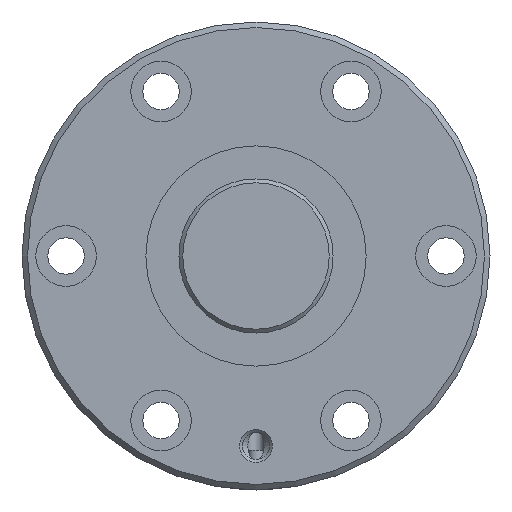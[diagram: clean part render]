
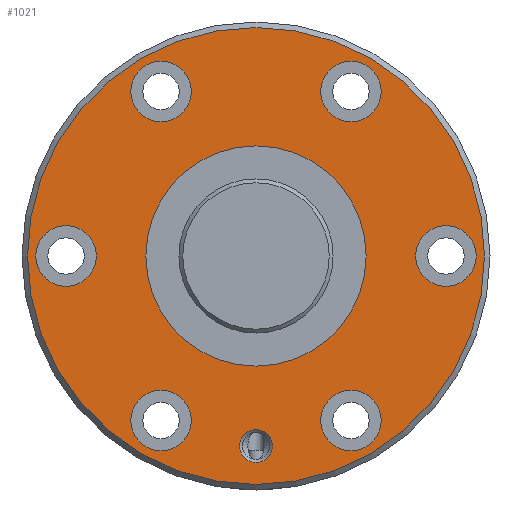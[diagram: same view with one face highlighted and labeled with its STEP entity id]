
A CAD part, left-side view. The second image highlights one B-rep face of the part: STEP entity #1021.
In plain terms, the highlighted planar face has unit normal (-1, 0, 0).
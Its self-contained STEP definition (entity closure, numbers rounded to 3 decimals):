
#162=ORIENTED_EDGE('',*,*,#385,.T.);
#163=ORIENTED_EDGE('',*,*,#386,.T.);
#164=ORIENTED_EDGE('',*,*,#387,.T.);
#165=ORIENTED_EDGE('',*,*,#388,.T.);
#166=ORIENTED_EDGE('',*,*,#389,.T.);
#167=ORIENTED_EDGE('',*,*,#390,.T.);
#168=ORIENTED_EDGE('',*,*,#391,.T.);
#169=ORIENTED_EDGE('',*,*,#392,.T.);
#170=ORIENTED_EDGE('',*,*,#384,.F.);
#384=EDGE_CURVE('',#499,#499,#593,.T.);
#385=EDGE_CURVE('',#500,#500,#594,.T.);
#386=EDGE_CURVE('',#501,#501,#595,.F.);
#387=EDGE_CURVE('',#502,#502,#596,.T.);
#388=EDGE_CURVE('',#503,#503,#597,.T.);
#389=EDGE_CURVE('',#504,#504,#598,.T.);
#390=EDGE_CURVE('',#505,#505,#599,.T.);
#391=EDGE_CURVE('',#506,#506,#600,.T.);
#392=EDGE_CURVE('',#507,#507,#601,.T.);
#499=VERTEX_POINT('',#1708);
#500=VERTEX_POINT('',#1711);
#501=VERTEX_POINT('',#1713);
#502=VERTEX_POINT('',#1715);
#503=VERTEX_POINT('',#1717);
#504=VERTEX_POINT('',#1719);
#505=VERTEX_POINT('',#1721);
#506=VERTEX_POINT('',#1723);
#507=VERTEX_POINT('',#1725);
#593=CIRCLE('',#1136,41.5);
#594=CIRCLE('',#1138,20.);
#595=CIRCLE('',#1139,5.5);
#596=CIRCLE('',#1140,3.);
#597=CIRCLE('',#1141,5.5);
#598=CIRCLE('',#1142,5.5);
#599=CIRCLE('',#1143,5.5);
#600=CIRCLE('',#1144,5.5);
#601=CIRCLE('',#1145,5.5);
#682=EDGE_LOOP('',(#162));
#683=EDGE_LOOP('',(#163));
#684=EDGE_LOOP('',(#164));
#685=EDGE_LOOP('',(#165));
#686=EDGE_LOOP('',(#166));
#687=EDGE_LOOP('',(#167));
#688=EDGE_LOOP('',(#168));
#689=EDGE_LOOP('',(#169));
#690=EDGE_LOOP('',(#170));
#842=FACE_BOUND('',#682,.T.);
#843=FACE_BOUND('',#683,.T.);
#844=FACE_BOUND('',#684,.T.);
#845=FACE_BOUND('',#685,.T.);
#846=FACE_BOUND('',#686,.T.);
#847=FACE_BOUND('',#687,.T.);
#848=FACE_BOUND('',#688,.T.);
#849=FACE_BOUND('',#689,.T.);
#850=FACE_BOUND('',#690,.T.);
#984=PLANE('',#1137);
#1021=ADVANCED_FACE('',(#842,#843,#844,#845,#846,#847,#848,#849,#850),#984,
 .T.);
#1136=AXIS2_PLACEMENT_3D('',#1707,#1322,#1323);
#1137=AXIS2_PLACEMENT_3D('',#1709,#1324,#1325);
#1138=AXIS2_PLACEMENT_3D('',#1710,#1326,#1327);
#1139=AXIS2_PLACEMENT_3D('',#1712,#1328,#1329);
#1140=AXIS2_PLACEMENT_3D('',#1714,#1330,#1331);
#1141=AXIS2_PLACEMENT_3D('',#1716,#1332,#1333);
#1142=AXIS2_PLACEMENT_3D('',#1718,#1334,#1335);
#1143=AXIS2_PLACEMENT_3D('',#1720,#1336,#1337);
#1144=AXIS2_PLACEMENT_3D('',#1722,#1338,#1339);
#1145=AXIS2_PLACEMENT_3D('',#1724,#1340,#1341);
#1322=DIRECTION('',(1.,0.,0.));
#1323=DIRECTION('',(0.,0.,-1.));
#1324=DIRECTION('',(-1.,0.,0.));
#1325=DIRECTION('',(0.,0.,1.));
#1326=DIRECTION('',(1.,0.,0.));
#1327=DIRECTION('',(0.,0.,-1.));
#1328=DIRECTION('',(-1.,0.,0.));
#1329=DIRECTION('',(0.,0.,1.));
#1330=DIRECTION('',(1.,0.,0.));
#1331=DIRECTION('',(0.,0.,-1.));
#1332=DIRECTION('',(1.,0.,0.));
#1333=DIRECTION('',(0.,0.,-1.));
#1334=DIRECTION('',(1.,0.,0.));
#1335=DIRECTION('',(0.,0.,-1.));
#1336=DIRECTION('',(1.,0.,0.));
#1337=DIRECTION('',(0.,0.,-1.));
#1338=DIRECTION('',(1.,0.,0.));
#1339=DIRECTION('',(0.,0.,-1.));
#1340=DIRECTION('',(1.,0.,0.));
#1341=DIRECTION('',(0.,0.,-1.));
#1707=CARTESIAN_POINT('',(0.,0.,0.));
#1708=CARTESIAN_POINT('',(0.,0.,-41.5));
#1709=CARTESIAN_POINT('',(0.,41.5,0.));
#1710=CARTESIAN_POINT('',(0.,0.,0.));
#1711=CARTESIAN_POINT('',(0.,0.,-20.));
#1712=CARTESIAN_POINT('',(0.,34.5,0.));
#1713=CARTESIAN_POINT('',(0.,34.5,5.5));
#1714=CARTESIAN_POINT('',(0.,0.,-34.5));
#1715=CARTESIAN_POINT('',(0.,0.,-37.5));
#1716=CARTESIAN_POINT('',(0.,-34.5,0.));
#1717=CARTESIAN_POINT('',(0.,-34.5,-5.5));
#1718=CARTESIAN_POINT('',(0.,17.25,29.878));
#1719=CARTESIAN_POINT('',(0.,17.25,24.378));
#1720=CARTESIAN_POINT('',(0.,-17.25,-29.878));
#1721=CARTESIAN_POINT('',(0.,-17.25,-35.378));
#1722=CARTESIAN_POINT('',(0.,-17.25,29.878));
#1723=CARTESIAN_POINT('',(0.,-17.25,24.378));
#1724=CARTESIAN_POINT('',(0.,17.25,-29.878));
#1725=CARTESIAN_POINT('',(0.,17.25,-35.378));
